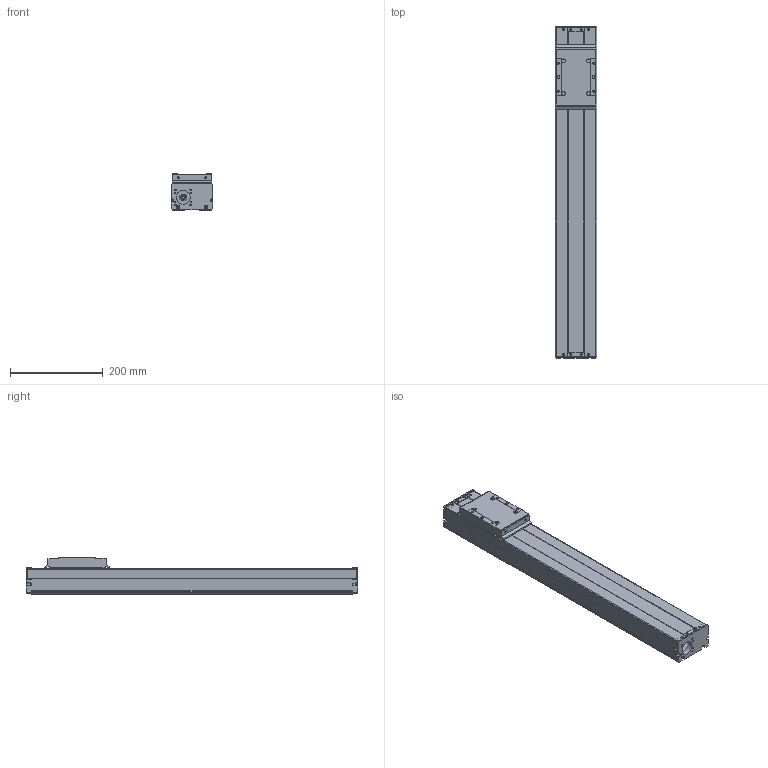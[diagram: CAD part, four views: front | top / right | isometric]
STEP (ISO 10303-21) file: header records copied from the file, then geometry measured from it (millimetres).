
FILE_DESCRIPTION (( 'STEP AP214' ), '1' );
FILE_NAME ('HZMotion TKS90-450A1F0.STEP', '2021-09-15T10:32:56', ( 'AutoBVT' ), ( 'Microsoft' ), 'SwSTEP 2.0', 'SolidWorks 2020', '' );
FILE_SCHEMA (( 'AUTOMOTIVE_DESIGN' ));
Length unit declared in the file: millimetre
Products named in the file (3): 450-2; HZMotion TKS90-450A1F0; A1F0-450-1
Assembly tree (2 placements, depth 2):
  HZMotion TKS90-450A1F0
    450-2
    A1F0-450-1
Bounding box: 90 x 714 x 78 mm (x, y, z)
Volume: 1287459.5 mm3; surface area: 493351.5 mm2
Topology: 2 solids, 6 shells, 520 faces, 1355 edges, 874 vertices
Faces by surface type: plane 269, cylinder 215, cone 32, torus 4
Entity records: 16045 total; most frequent: DIRECTION 2845, CARTESIAN_POINT 2730, ORIENTED_EDGE 2662, EDGE_CURVE 1331, AXIS2_PLACEMENT_3D 989, VERTEX_POINT 874, LINE 867, VECTOR 867
